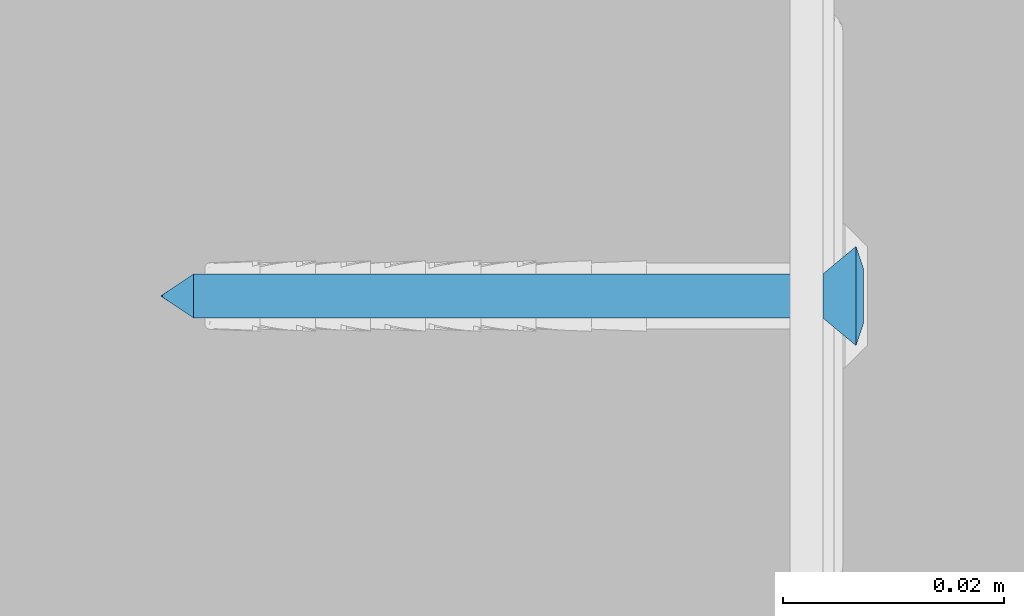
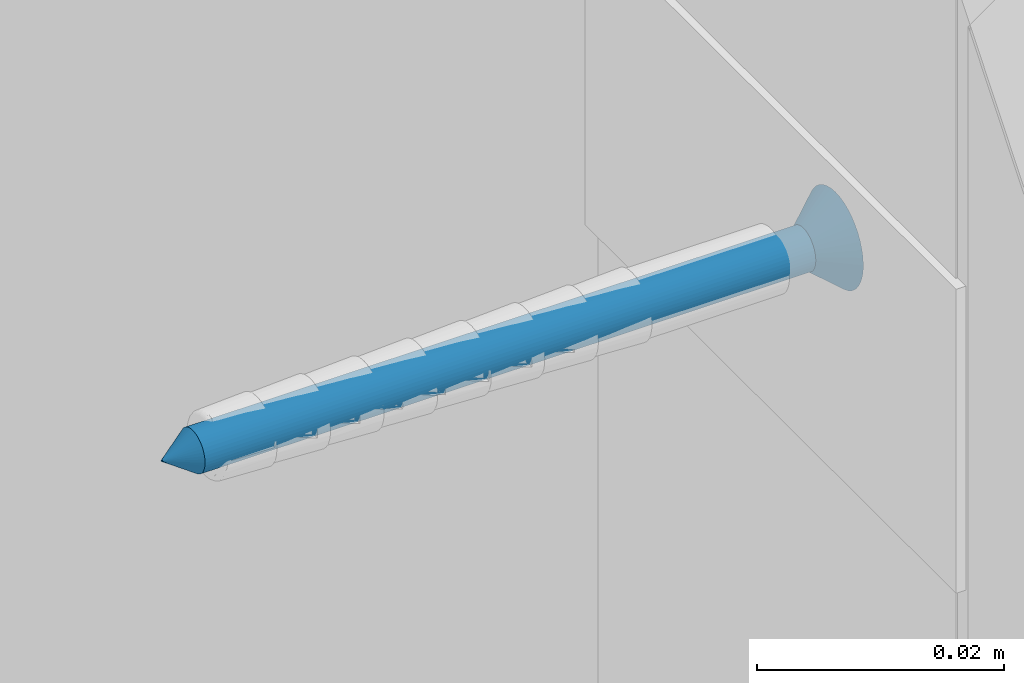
# One storey, part 30 of 61: 1 wall.
"""IFC2X3 building model written with IfcOpenShell, lengths in millimetres."""

from ifc_helpers import new_model, si_unit, frame, origin_with_axes, place, context, subcontext, project, spatial, faceted_brep, material, type_object, element, save


model = new_model("IFC2X3")

# Units and contexts
model_context = context("Model", 3, world=origin_with_axes())
body_context = subcontext(model_context, "Body", "Model", "MODEL_VIEW")
ifc_project = project(units=[si_unit("LENGTHUNIT", "METRE", prefix="MILLI"), si_unit("AREAUNIT", "SQUARE_METRE"), si_unit("VOLUMEUNIT", "CUBIC_METRE")], contexts=[model_context])

# Site, building, storey
site_placement = place(None, frame((2152.1410261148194, -2015.0250894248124, 57.61556563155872), z_axis=(0.0, 0.0, 1.0), x_axis=(-1.1102230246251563e-16, 1.0, 0.0)))
site = spatial("IfcSite", under=ifc_project, at=site_placement, Name="Default Site", CompositionType="ELEMENT")
building_placement = place(site_placement, origin_with_axes())
building = spatial("IfcBuilding", under=site, at=building_placement, Name="Default Building", CompositionType="ELEMENT")
storey_placement = place(building_placement, origin_with_axes())
storey = spatial("IfcBuildingStorey", under=building, at=storey_placement, Name="Default Building Storey", CompositionType="ELEMENT", Elevation=57.61556563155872)

# Wall
ifc_material = material(Name="Default")
wall_type = type_object("IfcWallType", Name="Kołek rozporowy min. fi 6#13", PredefinedType="NOTDEFINED")
wall_placement = place(storey_placement, frame((5691.176283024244, 2016.3286110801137, 3824.5989051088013), z_axis=(-6.858158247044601e-13, -1.0, 7.64238051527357e-14), x_axis=(-1.6476028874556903e-11, 7.642380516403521e-14, 1.0)))
element("IfcWall", 1, at=wall_placement, inside=storey, type_object=wall_type, material=ifc_material, Name="Kołek rozporowy min. fi 6", context=body_context, shape_type="Brep", body=[
    faceted_brep([(-1438.3141994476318, 3453.2833099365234, -0.46425670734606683), (-1435.8141422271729, 3453.2833099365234, -3.464256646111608), (-1435.7895851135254, 3452.970266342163, -3.464256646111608), (-1438.2587671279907, 3452.579259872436, -0.46425670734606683), (-1435.7162714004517, 3452.6650905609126, -3.464256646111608), (-1438.093900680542, 3451.892614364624, -0.46425670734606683), (-1435.5961084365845, 3452.3751735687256, -3.464256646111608), (-1437.8236532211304, 3451.240301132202, -0.46425670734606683), (-1435.4321956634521, 3452.107667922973, -3.464256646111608), (-1437.4547004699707, 3450.6382942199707, -0.46425670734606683), (-1435.22834777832, 3451.8690109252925, -3.464256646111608), (-1436.9961023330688, 3450.101137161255, -0.46425670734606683), (-1434.9896907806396, 3451.665163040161, -3.464256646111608), (-1436.4591836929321, 3449.642658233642, -0.46425670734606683), (-1434.7221851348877, 3451.501131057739, -3.464256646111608), (-1435.8570575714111, 3449.2735862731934, -0.46425670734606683), (-1434.4321489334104, 3451.381206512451, -3.464256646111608), (-1435.2047443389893, 3449.0034580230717, -0.46425670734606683), (-1434.1269731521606, 3451.307773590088, -3.464256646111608), (-1434.5180988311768, 3448.838710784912, -0.46425670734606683), (-1433.8141679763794, 3451.28321647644, -3.464256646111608), (-1433.8141679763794, 3448.7831592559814, -0.46425670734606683), (-1433.5012435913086, 3451.307773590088, -3.464256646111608), (-1433.110237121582, 3448.838710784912, -0.46425670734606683), (-1433.1960678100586, 3451.381206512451, -3.464256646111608), (-1432.4235916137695, 3449.0034580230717, -0.46425670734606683), (-1432.9061508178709, 3451.501131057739, -3.464256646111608), (-1431.771159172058, 3449.2735862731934, -0.46425670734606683), (-1432.6385259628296, 3451.665163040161, -3.464256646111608), (-1431.1691522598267, 3449.642658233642, -0.46425670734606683), (-1432.3999881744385, 3451.8690109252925, -3.464256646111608), (-1430.6321144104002, 3450.101137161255, -0.46425670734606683), (-1432.1961402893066, 3452.107667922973, -3.464256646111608), (-1430.1735162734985, 3450.6382942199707, -0.46425670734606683), (-1432.0321083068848, 3452.3751735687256, -3.464256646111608), (-1429.8045635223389, 3451.240301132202, -0.46425670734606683), (-1431.9120645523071, 3452.6650905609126, -3.464256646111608), (-1429.5344352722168, 3451.892614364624, -0.46425670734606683), (-1431.8387508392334, 3453.5961151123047, -3.464256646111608), (-1429.369568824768, 3453.9871215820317, -0.46425670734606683), (-1429.314136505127, 3453.2833099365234, -0.46425670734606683), (-1431.814193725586, 3453.2833099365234, -3.464256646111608), (-1429.369568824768, 3452.579259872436, -0.46425670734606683), (-1431.8387508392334, 3452.970266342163, -3.464256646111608), (-1431.9120645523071, 3453.9012908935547, -3.464256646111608), (-1429.5344352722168, 3454.6737670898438, -0.46425670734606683), (-1432.0321083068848, 3454.191207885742, -3.464256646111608), (-1429.8045635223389, 3455.3260803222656, -0.46425670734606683), (-1432.1961402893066, 3454.458713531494, -3.464256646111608), (-1430.1735162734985, 3455.9283256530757, -0.46425670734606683), (-1432.3999881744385, 3454.6973705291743, -3.464256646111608), (-1430.6321144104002, 3456.465244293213, -0.46425670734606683), (-1432.6385259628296, 3454.9012184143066, -3.464256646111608), (-1431.1691522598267, 3456.923723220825, -0.46425670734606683), (-1432.9061508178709, 3455.065250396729, -3.464256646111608), (-1431.771159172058, 3457.2927951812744, -0.46425670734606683), (-1433.1960678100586, 3455.1854133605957, -3.464256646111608), (-1432.4235916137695, 3457.562923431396, -0.46425670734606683), (-1433.5012435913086, 3455.25860786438, -3.464256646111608), (-1433.110237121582, 3457.7279090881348, -0.46425670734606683), (-1433.8141679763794, 3455.283164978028, -3.464256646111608), (-1433.8141679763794, 3457.7832221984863, -0.46425670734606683), (-1434.3430995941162, 3457.7519893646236, -0.46425670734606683), (-1434.1269731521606, 3455.25860786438, -3.464256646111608), (-1434.4321489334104, 3455.1854133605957, -3.464256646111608), (-1434.8646402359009, 3457.6590061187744, -0.46425670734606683), (-1435.3716373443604, 3457.504987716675, -0.46425670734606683), (-1434.7221851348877, 3455.065250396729, -3.464256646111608), (-1435.8570575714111, 3457.2927951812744, -0.46425670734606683), (-1434.9896907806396, 3454.9012184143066, -3.464256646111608), (-1435.22834777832, 3454.6973705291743, -3.464256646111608), (-1436.3142251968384, 3457.024812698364, -0.46425670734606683), (-1436.7367029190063, 3456.705093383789, -0.46425670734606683), (-1437.118649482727, 3456.337928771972, -0.46425670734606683), (-1437.4547004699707, 3455.9283256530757, -0.46425670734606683), (-1435.4321956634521, 3454.458713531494, -3.464256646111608), (-1435.5961084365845, 3454.191207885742, -3.464256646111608), (-1437.8236532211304, 3455.3260803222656, -0.46425670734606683), (-1435.7162714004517, 3453.9012908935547, -3.464256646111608), (-1438.093900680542, 3454.6737670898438, -0.46425670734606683), (-1435.7895851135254, 3453.5961151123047, -3.464256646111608), (-1438.2587671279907, 3453.9871215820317, -0.46425670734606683), (-1434.2052936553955, 3455.752372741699, 0.20073754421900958), (-1433.8141679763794, 3455.7831287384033, 0.20073754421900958), (-1434.5866441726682, 3455.6608200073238, 0.20073754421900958), (-1434.9491596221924, 3455.510854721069, 0.20073754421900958), (-1435.2836608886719, 3455.305814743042, 0.20073754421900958), (-1435.581922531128, 3455.0509452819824, 0.20073754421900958), (-1435.836672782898, 3454.7526836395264, 0.20073754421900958), (-1436.0417127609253, 3454.418182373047, 0.20073754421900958), (-1436.1917972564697, 3454.0557861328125, 0.20073754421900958), (-1436.2833499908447, 3453.6743164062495, 0.20073754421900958), (-1436.3141059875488, 3453.2833099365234, 0.20073754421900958), (-1436.2833499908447, 3452.8920650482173, 0.20073754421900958), (-1436.1917972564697, 3452.5105953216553, 0.20073754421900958), (-1436.0417127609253, 3452.148199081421, 0.20073754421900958), (-1435.836672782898, 3451.8136978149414, 0.20073754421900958), (-1435.581922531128, 3451.5154361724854, 0.20073754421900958), (-1435.2836608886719, 3451.260566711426, 0.20073754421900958), (-1434.9491596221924, 3451.0557651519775, 0.20073754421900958), (-1434.5866441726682, 3450.905561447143, 0.20073754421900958), (-1433.4230422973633, 3450.8140087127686, 0.20073754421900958), (-1433.8141679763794, 3450.7832527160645, 0.20073754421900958), (-1434.2052936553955, 3450.8140087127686, 0.20073754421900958), (-1433.0415725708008, 3450.905561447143, 0.20073754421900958), (-1432.6791763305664, 3451.0557651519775, 0.20073754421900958), (-1432.344675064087, 3451.260566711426, 0.20073754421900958), (-1432.0464134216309, 3451.5154361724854, 0.20073754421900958), (-1431.7916631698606, 3451.8136978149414, 0.20073754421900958), (-1431.5866231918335, 3452.148199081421, 0.20073754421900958), (-1431.436538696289, 3452.5105953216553, 0.20073754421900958), (-1431.344985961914, 3452.8920650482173, 0.20073754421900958), (-1431.3141107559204, 3453.2833099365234, 0.20073754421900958), (-1431.344985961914, 3453.6743164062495, 0.20073754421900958), (-1431.436538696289, 3454.0557861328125, 0.20073754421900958), (-1431.5866231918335, 3454.418182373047, 0.20073754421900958), (-1431.7916631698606, 3454.7526836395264, 0.20073754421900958), (-1432.0464134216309, 3455.0509452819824, 0.20073754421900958), (-1432.344675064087, 3455.305814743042, 0.20073754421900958), (-1432.6791763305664, 3455.510854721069, 0.20073754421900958), (-1433.0415725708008, 3455.6608200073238, 0.20073754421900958), (-1433.4230422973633, 3455.752372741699, 0.20073754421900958), (-1433.8141679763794, 3453.2833099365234, -63.46425414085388), (-1435.7895851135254, 3452.970266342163, -60.464255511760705), (-1435.8141422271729, 3453.2833099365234, -60.464255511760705), (-1435.7162714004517, 3452.6650905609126, -60.464255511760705), (-1435.5961084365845, 3452.3751735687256, -60.464255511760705), (-1435.4321956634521, 3452.107667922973, -60.464255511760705), (-1435.22834777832, 3451.8690109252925, -60.464255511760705), (-1434.9896907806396, 3451.665163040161, -60.464255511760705), (-1434.7221851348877, 3451.501131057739, -60.464255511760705), (-1434.4321489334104, 3451.381206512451, -60.464255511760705), (-1434.1269731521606, 3451.307773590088, -60.464255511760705), (-1433.8141679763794, 3451.28321647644, -60.464255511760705), (-1433.5012435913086, 3451.307773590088, -60.464255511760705), (-1433.1960678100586, 3451.381206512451, -60.464255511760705), (-1432.9061508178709, 3451.501131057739, -60.464255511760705), (-1432.6385259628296, 3451.665163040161, -60.464255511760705), (-1432.3999881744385, 3451.8690109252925, -60.464255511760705), (-1432.1961402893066, 3452.107667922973, -60.464255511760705), (-1432.0321083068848, 3452.3751735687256, -60.464255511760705), (-1431.9120645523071, 3452.6650905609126, -60.464255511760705), (-1431.8387508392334, 3452.970266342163, -60.464255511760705), (-1431.814193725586, 3453.2833099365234, -60.464255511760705), (-1431.8387508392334, 3453.5961151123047, -60.464255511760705), (-1431.9120645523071, 3453.9012908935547, -60.464255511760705), (-1432.0321083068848, 3454.191207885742, -60.464255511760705), (-1432.1961402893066, 3454.458713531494, -60.464255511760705), (-1432.3999881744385, 3454.6973705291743, -60.464255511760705), (-1432.6385259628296, 3454.9012184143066, -60.464255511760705), (-1432.9061508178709, 3455.065250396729, -60.464255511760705), (-1433.1960678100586, 3455.1854133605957, -60.464255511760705), (-1433.5012435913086, 3455.25860786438, -60.464255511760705), (-1433.8141679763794, 3455.283164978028, -60.464255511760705), (-1434.1269731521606, 3455.25860786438, -60.464255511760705), (-1434.4321489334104, 3455.1854133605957, -60.464255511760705), (-1434.7221851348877, 3455.065250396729, -60.464255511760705), (-1434.9896907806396, 3454.9012184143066, -60.464255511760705), (-1435.22834777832, 3454.6973705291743, -60.464255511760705), (-1435.4321956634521, 3454.458713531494, -60.464255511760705), (-1435.5961084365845, 3454.191207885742, -60.464255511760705), (-1435.7162714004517, 3453.9012908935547, -60.464255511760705), (-1435.7895851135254, 3453.5961151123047, -60.464255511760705), (-1436.0417127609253, 3454.418182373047, 0.049999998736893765), (-1436.1917972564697, 3454.0557861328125, 0.049999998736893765), (-1436.2833499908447, 3453.6743164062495, 0.049999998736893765), (-1436.3141059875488, 3453.2833099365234, 0.049999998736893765), (-1436.2833499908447, 3452.8920650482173, 0.049999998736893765), (-1436.1917972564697, 3452.5105953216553, 0.049999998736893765), (-1436.0417127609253, 3452.148199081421, 0.049999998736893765), (-1435.836672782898, 3451.8136978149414, 0.049999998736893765), (-1435.581922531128, 3451.5154361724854, 0.049999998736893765), (-1435.2836608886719, 3451.260566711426, 0.049999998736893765), (-1434.9491596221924, 3451.0557651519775, 0.049999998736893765), (-1434.5866441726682, 3450.905561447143, 0.049999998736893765), (-1434.2052936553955, 3450.8140087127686, 0.049999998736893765), (-1433.8141679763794, 3450.7832527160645, 0.049999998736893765), (-1433.4230422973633, 3450.8140087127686, 0.049999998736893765), (-1433.0415725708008, 3450.905561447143, 0.049999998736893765), (-1432.6791763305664, 3451.0557651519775, 0.049999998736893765), (-1432.344675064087, 3451.260566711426, 0.049999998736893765), (-1432.0464134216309, 3451.5154361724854, 0.049999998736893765), (-1431.7916631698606, 3451.8136978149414, 0.049999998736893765), (-1431.5866231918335, 3452.148199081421, 0.049999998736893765), (-1431.436538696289, 3452.5105953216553, 0.049999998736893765), (-1431.344985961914, 3452.8920650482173, 0.049999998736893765), (-1431.3141107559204, 3453.2833099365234, 0.049999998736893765), (-1431.344985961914, 3453.6743164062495, 0.049999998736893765), (-1431.436538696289, 3454.0557861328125, 0.049999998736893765), (-1431.5866231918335, 3454.418182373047, 0.049999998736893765), (-1431.7916631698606, 3454.7526836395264, 0.049999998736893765), (-1432.0464134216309, 3455.0509452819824, 0.049999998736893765), (-1432.344675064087, 3455.305814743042, 0.049999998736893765), (-1432.6791763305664, 3455.510854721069, 0.049999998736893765), (-1433.0415725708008, 3455.6608200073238, 0.049999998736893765), (-1433.4230422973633, 3455.752372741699, 0.049999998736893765), (-1433.8141679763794, 3455.7831287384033, 0.049999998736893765), (-1434.2052936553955, 3455.752372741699, 0.049999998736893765), (-1434.5866441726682, 3455.6608200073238, 0.049999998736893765), (-1434.9491596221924, 3455.510854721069, 0.049999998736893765), (-1435.2836608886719, 3455.305814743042, 0.049999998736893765), (-1435.581922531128, 3455.0509452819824, 0.049999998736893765), (-1435.836672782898, 3454.7526836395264, 0.049999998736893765), (-1434.3141317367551, 3452.7831077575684, 0.049999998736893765), (-1435.8141422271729, 3452.7831077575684, 0.049999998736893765), (-1435.8141422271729, 3453.7832736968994, 0.049999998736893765), (-1434.3141317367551, 3453.7832736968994, 0.049999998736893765), (-1434.3141317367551, 3455.283164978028, 0.049999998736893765), (-1433.3142042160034, 3455.283164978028, 0.049999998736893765), (-1433.3142042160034, 3453.7832736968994, 0.049999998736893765), (-1431.814193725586, 3453.7832736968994, 0.049999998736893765), (-1431.814193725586, 3452.7831077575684, 0.049999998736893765), (-1433.3142042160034, 3452.7831077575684, 0.049999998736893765), (-1433.3142042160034, 3451.28321647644, 0.049999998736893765), (-1434.3141317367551, 3451.28321647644, 0.049999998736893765), (-1434.3141317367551, 3452.7831077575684, -1.799262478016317), (-1434.3141317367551, 3451.28321647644, -1.799262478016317), (-1433.3142042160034, 3451.28321647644, -1.799262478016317), (-1433.3142042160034, 3452.7831077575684, -1.799262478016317), (-1431.814193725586, 3452.7831077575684, -1.799262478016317), (-1431.814193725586, 3453.7832736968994, -1.799262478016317), (-1433.3142042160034, 3453.7832736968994, -1.799262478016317), (-1433.3142042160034, 3455.283164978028, -1.799262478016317), (-1434.3141317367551, 3455.283164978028, -1.799262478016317), (-1434.3141317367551, 3453.7832736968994, -1.799262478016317), (-1435.8141422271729, 3453.7832736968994, -1.799262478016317), (-1435.8141422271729, 3452.7831077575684, -1.799262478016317)], [[[0, 1, 2, 3]], [[4, 5, 3, 2]], [[6, 7, 5, 4]], [[7, 6, 8, 9]], [[10, 11, 9, 8]], [[11, 10, 12, 13]], [[14, 15, 13, 12]], [[16, 17, 15, 14]], [[17, 16, 18, 19]], [[20, 21, 19, 18]], [[21, 20, 22, 23]], [[24, 25, 23, 22]], [[26, 27, 25, 24]], [[27, 26, 28, 29]], [[30, 31, 29, 28]], [[31, 30, 32, 33]], [[34, 35, 33, 32]], [[36, 37, 35, 34]], [[38, 39, 40, 41]], [[41, 40, 42, 43]], [[37, 36, 43, 42]], [[44, 45, 39, 38]], [[46, 47, 45, 44]], [[47, 46, 48, 49]], [[50, 51, 49, 48]], [[51, 50, 52, 53]], [[54, 55, 53, 52]], [[56, 57, 55, 54]], [[57, 56, 58, 59]], [[60, 61, 59, 58]], [[62, 61, 63]], [[61, 60, 63]], [[63, 64, 62]], [[64, 65, 62]], [[66, 65, 64]], [[64, 67, 66]], [[67, 68, 66]], [[69, 70, 71]], [[70, 72, 71]], [[71, 68, 69]], [[68, 67, 69]], [[70, 73, 72]], [[74, 73, 75]], [[73, 70, 75]], [[76, 77, 74, 75]], [[78, 79, 77, 76]], [[79, 78, 80, 81]], [[1, 0, 81, 80]], [[82, 83, 62]], [[83, 61, 62]], [[62, 65, 82]], [[65, 84, 82]], [[66, 68, 84]], [[68, 85, 84]], [[84, 65, 66]], [[86, 85, 71]], [[85, 68, 71]], [[72, 73, 87]], [[87, 86, 72]], [[86, 71, 72]], [[88, 87, 74]], [[87, 73, 74]], [[77, 89, 88, 74]], [[79, 90, 89, 77]], [[90, 79, 81, 91]], [[0, 92, 91, 81]], [[92, 0, 3, 93]], [[5, 94, 93, 3]], [[7, 95, 94, 5]], [[95, 7, 9, 96]], [[11, 97, 96, 9]], [[97, 11, 13, 98]], [[15, 99, 98, 13]], [[17, 100, 99, 15]], [[23, 101, 102, 21]], [[21, 102, 103, 19]], [[100, 17, 19, 103]], [[25, 104, 101, 23]], [[27, 105, 104, 25]], [[105, 27, 29, 106]], [[31, 107, 106, 29]], [[107, 31, 33, 108]], [[35, 109, 108, 33]], [[37, 110, 109, 35]], [[110, 37, 42, 111]], [[40, 112, 111, 42]], [[112, 40, 39, 113]], [[45, 114, 113, 39]], [[47, 115, 114, 45]], [[115, 47, 49, 116]], [[51, 117, 116, 49]], [[117, 51, 53, 118]], [[55, 119, 118, 53]], [[57, 120, 119, 55]], [[120, 57, 59, 121]], [[61, 83, 121, 59]], [[122, 123, 124]], [[122, 125, 123]], [[122, 126, 125]], [[127, 126, 122]], [[122, 128, 127]], [[129, 128, 122]], [[122, 130, 129]], [[122, 131, 130]], [[132, 131, 122]], [[122, 133, 132]], [[134, 133, 122]], [[122, 135, 134]], [[122, 136, 135]], [[137, 136, 122]], [[122, 138, 137]], [[139, 138, 122]], [[122, 140, 139]], [[122, 141, 140]], [[142, 141, 122]], [[122, 143, 142]], [[144, 143, 122]], [[122, 145, 144]], [[122, 146, 145]], [[147, 146, 122]], [[122, 148, 147]], [[149, 148, 122]], [[122, 150, 149]], [[122, 151, 150]], [[152, 151, 122]], [[122, 153, 152]], [[154, 153, 122]], [[122, 155, 154]], [[122, 156, 155]], [[157, 156, 122]], [[122, 158, 157]], [[159, 158, 122]], [[122, 160, 159]], [[122, 161, 160]], [[162, 161, 122]], [[124, 162, 122]], [[1, 124, 123, 2]], [[125, 4, 2, 123]], [[126, 6, 4, 125]], [[6, 126, 127, 8]], [[128, 10, 8, 127]], [[10, 128, 129, 12]], [[130, 14, 12, 129]], [[131, 16, 14, 130]], [[16, 131, 132, 18]], [[133, 20, 18, 132]], [[20, 133, 134, 22]], [[135, 24, 22, 134]], [[136, 26, 24, 135]], [[26, 136, 137, 28]], [[138, 30, 28, 137]], [[30, 138, 139, 32]], [[140, 34, 32, 139]], [[141, 36, 34, 140]], [[144, 38, 41, 143]], [[143, 41, 43, 142]], [[36, 141, 142, 43]], [[145, 44, 38, 144]], [[146, 46, 44, 145]], [[46, 146, 147, 48]], [[148, 50, 48, 147]], [[50, 148, 149, 52]], [[150, 54, 52, 149]], [[151, 56, 54, 150]], [[56, 151, 152, 58]], [[153, 60, 58, 152]], [[60, 153, 154, 63]], [[155, 64, 63, 154]], [[156, 67, 64, 155]], [[67, 156, 157, 69]], [[158, 70, 69, 157]], [[70, 158, 159, 75]], [[160, 76, 75, 159]], [[161, 78, 76, 160]], [[78, 161, 162, 80]], [[124, 1, 80, 162]], [[163, 164, 165, 166, 167, 168, 169, 170, 171, 172, 173, 174, 175, 176, 177, 178, 179, 180, 181, 182, 183, 184, 185, 186, 187, 188, 189, 190, 191, 192, 193, 194, 195, 196, 197, 198, 199, 200, 201, 202], [203, 204, 205, 206, 207, 208, 209, 210, 211, 212, 213, 214]], [[187, 186, 112, 113]], [[113, 114, 188, 187]], [[114, 115, 189, 188]], [[190, 189, 115, 116]], [[116, 117, 191, 190]], [[192, 191, 117, 118]], [[118, 119, 193, 192]], [[119, 120, 194, 193]], [[195, 194, 120, 121]], [[121, 83, 196, 195]], [[197, 196, 83, 82]], [[82, 84, 198, 197]], [[84, 85, 199, 198]], [[200, 199, 85, 86]], [[86, 87, 201, 200]], [[202, 201, 87, 88]], [[88, 89, 163, 202]], [[89, 90, 164, 163]], [[92, 93, 167, 166]], [[91, 92, 166, 165]], [[165, 164, 90, 91]], [[93, 94, 168, 167]], [[94, 95, 169, 168]], [[170, 169, 95, 96]], [[96, 97, 171, 170]], [[172, 171, 97, 98]], [[98, 99, 173, 172]], [[99, 100, 174, 173]], [[175, 174, 100, 103]], [[103, 102, 176, 175]], [[177, 176, 102, 101]], [[101, 104, 178, 177]], [[104, 105, 179, 178]], [[180, 179, 105, 106]], [[106, 107, 181, 180]], [[182, 181, 107, 108]], [[108, 109, 183, 182]], [[109, 110, 184, 183]], [[185, 184, 110, 111]], [[111, 112, 186, 185]], [[215, 216, 217, 218, 219, 220, 221, 222, 223, 224, 225, 226]], [[216, 214, 213, 217]], [[215, 203, 214, 216]], [[226, 204, 203, 215]], [[225, 205, 204, 226]], [[224, 206, 205, 225]], [[223, 207, 206, 224]], [[222, 208, 207, 223]], [[221, 209, 208, 222]], [[220, 210, 209, 221]], [[219, 211, 210, 220]], [[218, 212, 211, 219]], [[217, 213, 212, 218]]]),
])

save(model, "model.ifc")
